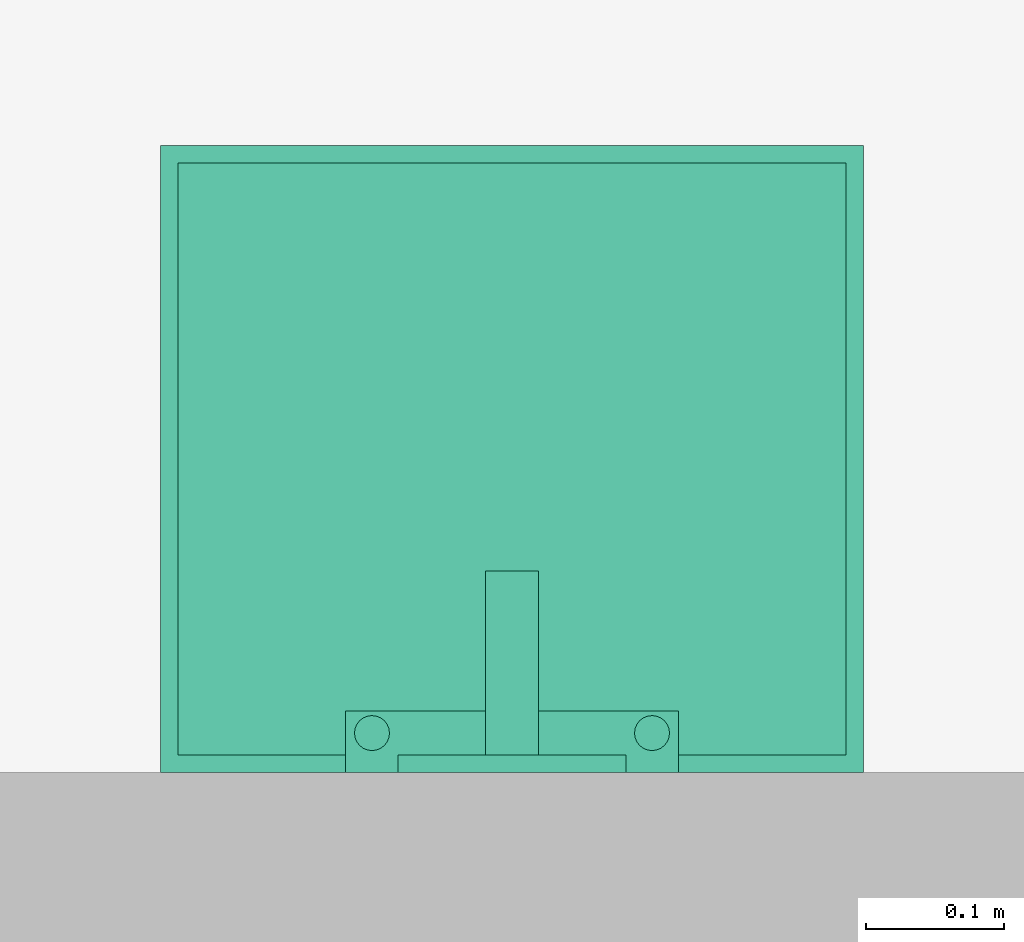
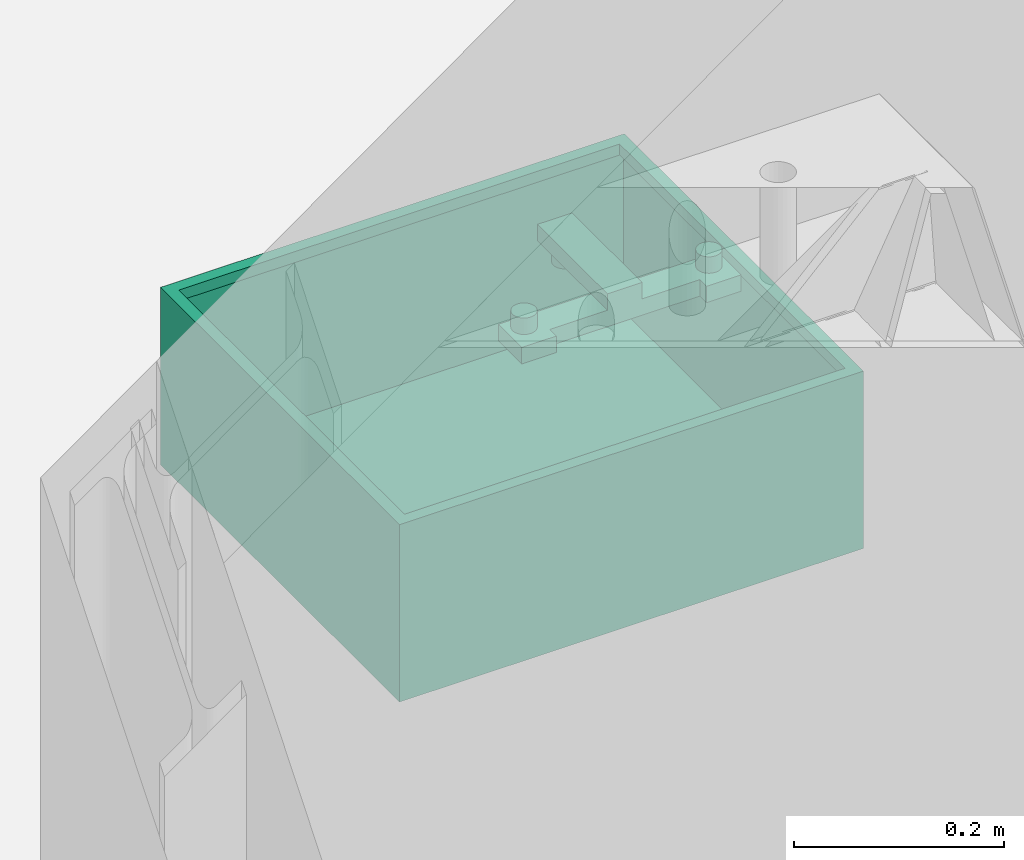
# One storey, part 111 of 137: 1 flow terminal.
"""IFC2X3 building model written with IfcOpenShell, lengths in centimetres."""

from ifc_helpers import new_model, entity, si_unit, converted_unit, derived_unit, direction, frame, origin, place, context, subcontext, project, spatial, faceted_brep, source, transform, mapped, element, save


model = new_model("IFC2X3")

# Units and contexts
model_context = context("Model", 3, precision=0.001, world=origin(), true_north=direction((6.12303176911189e-17, 1.0)))
body_context = subcontext(model_context, "Body", "Model", "MODEL_VIEW")
ifc_project = project(units=[si_unit("LENGTHUNIT", "METRE", prefix="CENTI"), si_unit("AREAUNIT", "SQUARE_METRE"), si_unit("VOLUMEUNIT", "CUBIC_METRE"), converted_unit("PLANEANGLEUNIT", "DEGREE", entity("IfcRatioMeasure", 0.0174532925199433), si_unit("PLANEANGLEUNIT", "RADIAN"), dimensions=[0, 0, 0, 0, 0, 0, 0]), si_unit("MASSUNIT", "GRAM", prefix="KILO"), si_unit("TIMEUNIT", "SECOND"), si_unit("FREQUENCYUNIT", "HERTZ"), si_unit("THERMODYNAMICTEMPERATUREUNIT", "DEGREE_CELSIUS"), derived_unit("THERMALTRANSMITTANCEUNIT", [(si_unit("MASSUNIT", "GRAM", prefix="KILO"), 1), (si_unit("THERMODYNAMICTEMPERATUREUNIT", "KELVIN"), -1), (si_unit("TIMEUNIT", "SECOND"), -3)]), derived_unit("VOLUMETRICFLOWRATEUNIT", [(si_unit("LENGTHUNIT", "METRE"), 3), (si_unit("TIMEUNIT", "SECOND"), -1)]), si_unit("ELECTRICCURRENTUNIT", "AMPERE"), si_unit("ELECTRICVOLTAGEUNIT", "VOLT"), si_unit("POWERUNIT", "WATT"), si_unit("FORCEUNIT", "NEWTON", prefix="KILO"), si_unit("ILLUMINANCEUNIT", "LUX"), si_unit("LUMINOUSFLUXUNIT", "LUMEN"), si_unit("LUMINOUSINTENSITYUNIT", "CANDELA"), derived_unit("USERDEFINED", [(si_unit("MASSUNIT", "GRAM", prefix="KILO"), -1), (si_unit("LENGTHUNIT", "METRE"), -2), (si_unit("TIMEUNIT", "SECOND"), 3), (si_unit("LUMINOUSFLUXUNIT", "LUMEN"), 1)]), derived_unit("LINEARVELOCITYUNIT", [(si_unit("LENGTHUNIT", "METRE"), 1), (si_unit("TIMEUNIT", "SECOND"), -1)]), si_unit("PRESSUREUNIT", "PASCAL"), derived_unit("USERDEFINED", [(si_unit("LENGTHUNIT", "METRE"), -2), (si_unit("MASSUNIT", "GRAM", prefix="KILO"), 1), (si_unit("TIMEUNIT", "SECOND"), -2)])], contexts=[model_context])

# Site, building, storey, space
site_placement = place(None, frame((8.62739174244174, -249.285249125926, 0.0)))
site = spatial("IfcSite", under=ifc_project, at=site_placement, Name="Default", CompositionType="ELEMENT")
building_placement = place(site_placement, origin())
building = spatial("IfcBuilding", under=site, at=building_placement, CompositionType="ELEMENT")
storey_placement = place(building_placement, origin())
storey = spatial("IfcBuildingStorey", under=building, at=storey_placement, Name="RDC", CompositionType="ELEMENT", Elevation=-8.82465566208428e-11)
space_placement = place(storey_placement, origin())
space = spatial("IfcSpace", under=storey, at=space_placement, Name="089", CompositionType="ELEMENT", InteriorOrExteriorSpace="INTERNAL")

# Flow terminal
shared_shape = source(origin(), body_context, "Body", "Brep", [
    faceted_brep([(25.5000000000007, 0.0, 20.6175000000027), (-25.4999999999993, 0.0, 20.6175000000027), (-25.4999999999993, -45.5000000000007, 20.6175000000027), (25.5000000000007, -45.5000000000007, 20.6175000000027), (24.2300000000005, -1.27000000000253, 20.6175000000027), (24.2300000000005, -44.2300000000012, 20.6175000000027), (-24.2299999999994, -44.2300000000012, 20.6175000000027), (-24.2299999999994, -1.27000000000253, 20.6175000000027), (25.5000000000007, 0.0, 19.3475000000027), (25.5000000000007, -45.5000000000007, 19.3475000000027), (-25.4999999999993, -45.5000000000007, 19.3475000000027), (-25.4999999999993, 0.0, 19.3475000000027), (24.2300000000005, -1.27000000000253, 19.3475000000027), (-24.2299999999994, -1.27000000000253, 19.3475000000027), (-24.2299999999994, -44.2300000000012, 19.3475000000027), (24.2300000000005, -44.2300000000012, 19.3475000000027)], [[[0, 1, 2, 3], [4, 5, 6, 7]], [[8, 9, 10, 11], [12, 13, 14, 15]], [[1, 0, 8, 11]], [[2, 1, 11, 10]], [[3, 2, 10, 9]], [[0, 3, 9, 8]], [[5, 4, 12, 15]], [[6, 5, 15, 14]], [[7, 6, 14, 13]], [[4, 7, 13, 12]]]),
    faceted_brep([(2.19970452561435, -13.9700000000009, 0.317499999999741), (2.45345159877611, -13.3574003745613, 0.317499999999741), (2.54000000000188, -12.7000000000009, 0.317499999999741), (2.45345159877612, -12.0425996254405, 0.317499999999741), (2.19970452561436, -11.4300000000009, 0.317499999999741), (1.79605122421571, -10.9039487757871, 0.317499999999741), (1.27000000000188, -10.5002954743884, 0.317499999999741), (0.657400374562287, -10.2465484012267, 0.317499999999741), (0.0, -10.1600000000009, 0.317499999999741), (-0.657400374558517, -10.2465484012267, 0.317499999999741), (-1.26999999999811, -10.5002954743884, 0.317499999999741), (-1.79605122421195, -10.9039487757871, 0.317499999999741), (-2.19970452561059, -11.4300000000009, 0.317499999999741), (-2.45345159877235, -12.0425996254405, 0.317499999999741), (-2.53999999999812, -12.7000000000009, 0.317499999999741), (-2.45345159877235, -13.3574003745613, 0.317499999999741), (-2.1997045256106, -13.9700000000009, 0.317499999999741), (-1.79605122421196, -14.4960512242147, 0.317499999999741), (-1.26999999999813, -14.8997045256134, 0.317499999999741), (-0.657400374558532, -15.1534515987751, 0.317499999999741), (0.0, -15.2400000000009, 0.317499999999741), (0.657400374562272, -15.1534515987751, 0.317499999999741), (1.27000000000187, -14.8997045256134, 0.317499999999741), (1.7960512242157, -14.4960512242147, 0.317499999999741), (-0.657400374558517, -10.2465484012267, 0.0), (0.0, -10.1600000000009, 0.0), (0.657400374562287, -10.2465484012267, 0.0), (1.27000000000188, -10.5002954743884, 0.0), (1.79605122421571, -10.9039487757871, 0.0), (2.19970452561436, -11.4300000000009, 0.0), (2.45345159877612, -12.0425996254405, 0.0), (2.54000000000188, -12.7000000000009, 0.0), (2.45345159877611, -13.3574003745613, 0.0), (2.19970452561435, -13.9700000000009, 0.0), (1.7960512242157, -14.4960512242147, 0.0), (1.27000000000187, -14.8997045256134, 0.0), (0.657400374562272, -15.1534515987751, 0.0), (0.0, -15.2400000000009, 0.0), (-0.657400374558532, -15.1534515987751, 0.0), (-1.26999999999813, -14.8997045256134, 0.0), (-1.79605122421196, -14.4960512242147, 0.0), (-2.1997045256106, -13.9700000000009, 0.0), (-2.45345159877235, -13.3574003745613, 0.0), (-2.53999999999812, -12.7000000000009, 0.0), (-2.45345159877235, -12.0425996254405, 0.0), (-2.19970452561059, -11.4300000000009, 0.0), (-1.79605122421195, -10.9039487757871, 0.0), (-1.26999999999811, -10.5002954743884, 0.0)], [[[0, 1, 2, 3, 4, 5, 6, 7, 8, 9, 10, 11, 12, 13, 14, 15, 16, 17, 18, 19, 20, 21, 22, 23]], [[24, 25, 26, 27, 28, 29, 30, 31, 32, 33, 34, 35, 36, 37, 38, 39, 40, 41, 42, 43, 44, 45, 46, 47]], [[42, 15, 14, 43]], [[41, 16, 15, 42]], [[18, 17, 40, 39]], [[41, 40, 17, 16]], [[19, 18, 39, 38]], [[20, 19, 38, 37]], [[36, 21, 20, 37]], [[35, 22, 21, 36]], [[0, 23, 34, 33]], [[35, 34, 23, 22]], [[1, 0, 33, 32]], [[2, 1, 32, 31]], [[30, 3, 2, 31]], [[29, 4, 3, 30]], [[6, 5, 28, 27]], [[29, 28, 5, 4]], [[7, 6, 27, 26]], [[8, 7, 26, 25]], [[24, 9, 8, 25]], [[47, 10, 9, 24]], [[12, 11, 46, 45]], [[47, 46, 11, 10]], [[13, 12, 45, 44]], [[14, 13, 44, 43]]]),
    faceted_brep([(25.5000000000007, 0.0, 19.3475000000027), (-25.4999999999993, 0.0, 19.3475000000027), (-25.4999999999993, -45.5000000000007, 19.3475000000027), (25.5000000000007, -45.5000000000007, 19.3475000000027), (25.1825000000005, -0.31750000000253, 19.3475000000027), (25.1825000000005, -45.1825000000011, 19.3475000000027), (-25.1824999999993, -45.1825000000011, 19.3475000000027), (-25.1824999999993, -0.317500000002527, 19.3475000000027), (25.5000000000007, 0.0, 0.0), (25.5000000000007, -45.5000000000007, 0.0), (-25.4999999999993, -45.5000000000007, 0.0), (-25.4999999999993, 0.0, 0.0), (25.1825000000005, -0.31750000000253, 0.317499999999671), (25.1825000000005, -45.1825000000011, 0.317499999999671), (-25.1824999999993, -45.1825000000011, 0.317499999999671), (-25.1824999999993, -0.317500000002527, 0.317499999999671)], [[[0, 1, 2, 3], [4, 5, 6, 7]], [[8, 9, 10, 11]], [[1, 0, 8, 11]], [[2, 1, 11, 10]], [[3, 2, 10, 9]], [[0, 3, 9, 8]], [[5, 4, 12, 13]], [[6, 5, 13, 14]], [[7, 6, 14, 15]], [[4, 7, 15, 12]], [[13, 12, 15, 14]]]),
    faceted_brep([(-9.83129981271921, -4.08422579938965, 38.4099999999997), (-9.52499999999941, -3.95735226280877, 38.4099999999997), (-9.26197438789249, -3.75552561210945, 38.4099999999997), (-9.06014773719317, -3.49250000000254, 38.4099999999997), (-8.93327420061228, -3.18620018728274, 38.4099999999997), (-8.8899999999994, -2.85750000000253, 38.4099999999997), (-8.93327420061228, -2.52879981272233, 38.4099999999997), (-9.06014773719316, -2.22250000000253, 38.4099999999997), (-9.26197438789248, -1.95947438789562, 38.4099999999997), (-9.5249999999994, -1.75764773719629, 38.4099999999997), (-9.8312998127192, -1.63077420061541, 38.4099999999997), (-10.1599999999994, -1.58750000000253, 38.4099999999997), (-10.4887001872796, -1.63077420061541, 38.4099999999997), (-10.7949999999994, -1.75764773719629, 38.4099999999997), (-11.0580256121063, -1.95947438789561, 38.4099999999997), (-11.2598522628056, -2.22250000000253, 38.4099999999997), (-11.3867257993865, -2.52879981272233, 38.4099999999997), (-11.4299999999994, -2.85750000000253, 38.4099999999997), (-11.3867257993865, -3.18620018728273, 38.4099999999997), (-11.2598522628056, -3.49250000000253, 38.4099999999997), (-11.0580256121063, -3.75552561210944, 38.4099999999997), (-10.7949999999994, -3.95735226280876, 38.4099999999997), (-10.4887001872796, -4.08422579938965, 38.4099999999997), (-10.1599999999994, -4.12750000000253, 38.4099999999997), (1.90500000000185, -14.6050000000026, 38.4099999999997), (1.90500000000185, -1.27000000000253, 38.4099999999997), (-1.90499999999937, -1.27000000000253, 38.4099999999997), (-1.90499999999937, -14.6050000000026, 38.4099999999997), (10.7950000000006, -3.95735226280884, 38.4099999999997), (11.0580256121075, -3.75552561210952, 38.4099999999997), (11.2598522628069, -3.4925000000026, 38.4099999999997), (11.3867257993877, -3.18620018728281, 38.4099999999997), (11.4300000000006, -2.8575000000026, 38.4099999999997), (11.3867257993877, -2.5287998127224, 38.4099999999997), (11.2598522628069, -2.2225000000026, 38.4099999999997), (11.0580256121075, -1.95947438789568, 38.4099999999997), (10.7950000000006, -1.75764773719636, 38.4099999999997), (10.4887001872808, -1.63077420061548, 38.4099999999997), (10.1600000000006, -1.5875000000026, 38.4099999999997), (9.83129981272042, -1.63077420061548, 38.4099999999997), (9.52500000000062, -1.75764773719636, 38.4099999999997), (9.26197438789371, -1.95947438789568, 38.4099999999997), (9.06014773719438, -2.22250000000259, 38.4099999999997), (8.9332742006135, -2.52879981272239, 38.4099999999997), (8.89000000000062, -2.85750000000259, 38.4099999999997), (8.9332742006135, -3.18620018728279, 38.4099999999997), (9.06014773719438, -3.49250000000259, 38.4099999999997), (9.2619743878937, -3.75552561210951, 38.4099999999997), (9.52500000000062, -3.95735226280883, 38.4099999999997), (9.83129981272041, -4.08422579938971, 38.4099999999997), (10.1600000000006, -4.1275000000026, 38.4099999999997), (10.4887001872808, -4.08422579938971, 38.4099999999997), (-8.25499999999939, -1.27000000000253, 36.5049999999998), (-8.25499999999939, 0.0, 36.5049999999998), (-9.52499999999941, -1.75764773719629, 36.5049999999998), (-9.26197438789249, -1.95947438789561, 36.5049999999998), (-9.06014773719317, -2.22250000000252, 36.5049999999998), (-8.93327420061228, -2.52879981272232, 36.5049999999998), (-8.8899999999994, -2.85750000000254, 36.5049999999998), (-1.90499999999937, -4.44500000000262, 36.5049999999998), (-1.90499999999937, -1.27000000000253, 36.5049999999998), (-9.83129981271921, -1.63077420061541, 36.5049999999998), (-10.1599999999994, -1.58750000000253, 36.5049999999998), (-12.0649999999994, 0.0, 36.5049999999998), (-10.4887001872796, -1.63077420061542, 36.5049999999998), (-10.7949999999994, -1.7576477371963, 36.5049999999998), (-11.0580256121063, -1.95947438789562, 36.5049999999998), (-11.2598522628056, -2.22250000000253, 36.5049999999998), (-11.3867257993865, -2.52879981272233, 36.5049999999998), (-11.4299999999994, -2.85750000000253, 36.5049999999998), (-12.0649999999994, -4.44500000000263, 36.5049999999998), (-11.3867257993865, -3.18620018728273, 36.5049999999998), (-11.2598522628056, -3.49250000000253, 36.5049999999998), (-11.0580256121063, -3.75552561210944, 36.5049999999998), (-10.7949999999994, -3.95735226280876, 36.5049999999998), (-10.4887001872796, -4.08422579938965, 36.5049999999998), (-10.1599999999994, -4.12750000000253, 36.5049999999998), (-8.93327420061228, -3.18620018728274, 36.5049999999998), (-9.06014773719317, -3.49250000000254, 36.5049999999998), (-9.26197438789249, -3.75552561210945, 36.5049999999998), (-9.52499999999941, -3.95735226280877, 36.5049999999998), (-9.83129981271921, -4.08422579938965, 36.5049999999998), (12.0650000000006, 0.0, 36.5049999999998), (11.2598522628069, -2.22250000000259, 36.5049999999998), (11.3867257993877, -2.52879981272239, 36.5049999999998), (11.0580256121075, -1.95947438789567, 36.5049999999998), (11.4300000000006, -2.8575000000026, 36.5049999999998), (10.7950000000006, -1.75764773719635, 36.5049999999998), (10.4887001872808, -1.63077420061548, 36.5049999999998), (10.1600000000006, -1.5875000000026, 36.5049999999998), (8.25500000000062, 0.0, 36.5049999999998), (12.0650000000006, -4.44500000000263, 36.5049999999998), (9.83129981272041, -1.63077420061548, 36.5049999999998), (9.52500000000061, -1.75764773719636, 36.5049999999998), (8.25500000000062, -1.27000000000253, 36.5049999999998), (9.2619743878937, -1.95947438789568, 36.5049999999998), (9.06014773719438, -2.2225000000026, 36.5049999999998), (8.9332742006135, -2.5287998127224, 36.5049999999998), (8.89000000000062, -2.8575000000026, 36.5049999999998), (1.90500000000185, -4.44500000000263, 36.5049999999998), (1.90500000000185, -1.27000000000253, 36.5049999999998), (10.1600000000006, -4.1275000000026, 36.5049999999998), (8.9332742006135, -3.18620018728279, 36.5049999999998), (9.06014773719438, -3.49250000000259, 36.5049999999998), (9.2619743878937, -3.75552561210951, 36.5049999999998), (9.52500000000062, -3.95735226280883, 36.5049999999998), (9.83129981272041, -4.08422579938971, 36.5049999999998), (10.4887001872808, -4.08422579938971, 36.5049999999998), (11.3867257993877, -3.18620018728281, 36.5049999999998), (11.2598522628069, -3.4925000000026, 36.5049999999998), (11.0580256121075, -3.75552561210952, 36.5049999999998), (10.7950000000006, -3.95735226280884, 36.5049999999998), (-1.09985226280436, -12.0650000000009, 36.5049999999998), (-1.22672579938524, -12.3712998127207, 36.5049999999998), (-0.898025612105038, -11.801974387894, 36.5049999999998), (-1.90499999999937, -14.6050000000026, 36.5049999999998), (-0.634999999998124, -11.6001477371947, 36.5049999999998), (-0.328700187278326, -11.4732742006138, 36.5049999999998), (0.0, -11.4300000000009, 36.5049999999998), (0.328700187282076, -11.4732742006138, 36.5049999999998), (0.635000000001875, -11.6001477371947, 36.5049999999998), (0.898025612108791, -11.801974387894, 36.5049999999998), (1.09985226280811, -12.0650000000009, 36.5049999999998), (1.226725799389, -12.3712998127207, 36.5049999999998), (1.90500000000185, -14.6050000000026, 36.5049999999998), (1.27000000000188, -12.7000000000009, 36.5049999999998), (1.226725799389, -13.0287001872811, 36.5049999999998), (1.09985226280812, -13.3350000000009, 36.5049999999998), (0.898025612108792, -13.5980256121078, 36.5049999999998), (0.635000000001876, -13.7998522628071, 36.5049999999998), (0.328700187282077, -13.926725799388, 36.5049999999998), (0.0, -13.9700000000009, 36.5049999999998), (-1.26999999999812, -12.7000000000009, 36.5049999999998), (-1.22672579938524, -13.0287001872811, 36.5049999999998), (-1.09985226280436, -13.3350000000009, 36.5049999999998), (-0.898025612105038, -13.5980256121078, 36.5049999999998), (-0.634999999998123, -13.7998522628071, 36.5049999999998), (-0.328700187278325, -13.926725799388, 36.5049999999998), (8.25500000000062, -1.27000000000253, 34.5999999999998), (-8.25499999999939, -1.27000000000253, 34.5999999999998), (-0.634999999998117, -11.6001477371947, 34.5999999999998), (-0.328700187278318, -11.4732742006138, 34.5999999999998), (0.0, -11.4300000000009, 34.5999999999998), (0.328700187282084, -11.4732742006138, 34.5999999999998), (0.635000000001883, -11.6001477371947, 34.5999999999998), (0.898025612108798, -11.801974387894, 34.5999999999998), (1.09985226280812, -12.0650000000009, 34.5999999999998), (1.226725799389, -12.3712998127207, 34.5999999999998), (1.27000000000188, -12.7000000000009, 34.5999999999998), (1.226725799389, -13.0287001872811, 34.5999999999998), (1.09985226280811, -13.3350000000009, 34.5999999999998), (0.898025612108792, -13.5980256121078, 34.5999999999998), (0.635000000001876, -13.7998522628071, 34.5999999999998), (0.328700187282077, -13.926725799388, 34.5999999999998), (0.0, -13.9700000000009, 34.5999999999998), (-0.328700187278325, -13.926725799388, 34.5999999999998), (-0.634999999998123, -13.7998522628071, 34.5999999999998), (-0.898025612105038, -13.5980256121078, 34.5999999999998), (-1.09985226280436, -13.3350000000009, 34.5999999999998), (-1.22672579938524, -13.0287001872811, 34.5999999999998), (-1.26999999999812, -12.7000000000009, 34.5999999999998), (-1.22672579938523, -12.3712998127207, 34.5999999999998), (-1.09985226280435, -12.0650000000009, 34.5999999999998), (-0.898025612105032, -11.801974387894, 34.5999999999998), (-12.0649999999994, 0.0, 34.5999999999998), (-8.25499999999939, 0.0, 34.5999999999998), (8.25500000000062, 0.0, 34.5999999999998), (12.0650000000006, 0.0, 34.5999999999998), (12.0650000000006, -4.44500000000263, 34.5999999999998), (-12.0649999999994, -4.44500000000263, 34.5999999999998)], [[[0, 1, 2, 3, 4, 5, 6, 7, 8, 9, 10, 11, 12, 13, 14, 15, 16, 17, 18, 19, 20, 21, 22, 23]], [[24, 25, 26, 27]], [[28, 29, 30, 31, 32, 33, 34, 35, 36, 37, 38, 39, 40, 41, 42, 43, 44, 45, 46, 47, 48, 49, 50, 51]], [[52, 53, 54]], [[54, 55, 52]], [[55, 56, 52]], [[57, 52, 56]], [[58, 52, 57]], [[58, 59, 52]], [[59, 60, 52]], [[61, 54, 53]], [[53, 62, 61]], [[62, 53, 63]], [[64, 62, 63]], [[65, 64, 63]], [[63, 66, 65]], [[66, 63, 67]], [[68, 67, 63]], [[63, 69, 68]], [[69, 63, 70]], [[71, 69, 70]], [[70, 72, 71]], [[72, 70, 73]], [[74, 73, 70]], [[74, 70, 75]], [[76, 75, 70]], [[76, 70, 59]], [[77, 59, 58]], [[59, 77, 78]], [[78, 79, 59]], [[79, 80, 59]], [[80, 81, 59]], [[59, 81, 76]], [[52, 53, 54]], [[54, 55, 52]], [[55, 56, 52]], [[57, 52, 56]], [[58, 52, 57]], [[58, 59, 52]], [[59, 60, 52]], [[61, 54, 53]], [[53, 62, 61]], [[62, 53, 63]], [[64, 62, 63]], [[65, 64, 63]], [[63, 66, 65]], [[66, 63, 67]], [[68, 67, 63]], [[63, 69, 68]], [[69, 63, 70]], [[71, 69, 70]], [[70, 72, 71]], [[72, 70, 73]], [[74, 73, 70]], [[74, 70, 75]], [[76, 75, 70]], [[76, 70, 59]], [[77, 59, 58]], [[59, 77, 78]], [[78, 79, 59]], [[79, 80, 59]], [[80, 81, 59]], [[59, 81, 76]], [[82, 83, 84]], [[83, 82, 85]], [[82, 84, 86]], [[87, 85, 82]], [[88, 87, 82]], [[89, 88, 82]], [[82, 90, 89]], [[86, 91, 82]], [[92, 89, 90]], [[93, 92, 90]], [[94, 93, 90]], [[95, 93, 94]], [[96, 95, 94]], [[97, 96, 94]], [[97, 94, 98]], [[94, 99, 98]], [[94, 100, 99]], [[91, 101, 99]], [[99, 102, 98]], [[102, 99, 103]], [[104, 103, 99]], [[104, 99, 105]], [[106, 105, 99]], [[106, 99, 101]], [[107, 101, 91]], [[86, 108, 91]], [[109, 91, 108]], [[91, 109, 110]], [[110, 111, 91]], [[111, 107, 91]], [[59, 112, 113]], [[112, 59, 114]], [[59, 113, 115]], [[116, 114, 59]], [[117, 116, 59]], [[118, 117, 59]], [[59, 99, 118]], [[119, 118, 99]], [[120, 119, 99]], [[121, 120, 99]], [[99, 122, 121]], [[122, 99, 123]], [[123, 99, 124]], [[124, 125, 123]], [[126, 125, 124]], [[127, 126, 124]], [[124, 128, 127]], [[128, 124, 129]], [[130, 129, 124]], [[131, 130, 124]], [[131, 124, 115]], [[132, 115, 113]], [[115, 132, 133]], [[115, 133, 134]], [[134, 135, 115]], [[135, 136, 115]], [[136, 137, 115]], [[115, 137, 131]], [[25, 100, 94, 138, 139, 52, 60, 26]], [[27, 26, 60, 59, 115]], [[24, 27, 115, 124]], [[25, 24, 124, 99, 100]], [[140, 141, 142, 143, 144, 145, 146, 147, 148, 149, 150, 151, 152, 153, 154, 155, 156, 157, 158, 159, 160, 161, 162, 163]], [[164, 165, 139, 138, 166, 167, 168, 169]], [[159, 133, 132, 160]], [[158, 134, 133, 159]], [[136, 135, 157, 156]], [[158, 157, 135, 134]], [[137, 136, 156, 155]], [[131, 137, 155, 154]], [[130, 131, 154, 153]], [[129, 130, 153, 152]], [[127, 150, 149, 126]], [[126, 149, 148, 125]], [[129, 152, 151, 128]], [[151, 150, 127, 128]], [[147, 123, 125, 148]], [[146, 122, 123, 147]], [[120, 121, 145, 144]], [[146, 145, 121, 122]], [[119, 120, 144, 143]], [[118, 119, 143, 142]], [[116, 140, 163, 114]], [[112, 162, 161, 113]], [[163, 162, 112, 114]], [[113, 161, 160, 132]], [[140, 116, 117, 141]], [[117, 118, 142, 141]], [[63, 53, 165, 164]], [[90, 82, 167, 166]], [[70, 63, 164, 169]], [[91, 99, 59, 70, 169, 168]], [[82, 91, 168, 167]], [[94, 90, 166, 138]], [[53, 52, 139, 165]], [[71, 18, 17, 69]], [[72, 19, 18, 71]], [[21, 20, 73, 74]], [[72, 73, 20, 19]], [[22, 21, 74, 75]], [[23, 22, 75, 76]], [[81, 0, 23, 76]], [[80, 1, 0, 81]], [[3, 2, 79, 78]], [[80, 79, 2, 1]], [[4, 3, 78, 77]], [[5, 4, 77, 58]], [[57, 6, 5, 58]], [[56, 7, 6, 57]], [[9, 8, 55, 54]], [[56, 55, 8, 7]], [[10, 9, 54, 61]], [[11, 10, 61, 62]], [[64, 12, 11, 62]], [[65, 13, 12, 64]], [[15, 14, 66, 67]], [[65, 66, 14, 13]], [[16, 15, 67, 68]], [[17, 16, 68, 69]], [[102, 45, 44, 98]], [[103, 46, 45, 102]], [[48, 47, 104, 105]], [[103, 104, 47, 46]], [[49, 48, 105, 106]], [[50, 49, 106, 101]], [[107, 51, 50, 101]], [[111, 28, 51, 107]], [[109, 30, 29, 110]], [[110, 29, 28, 111]], [[108, 31, 30, 109]], [[32, 31, 108, 86]], [[84, 33, 32, 86]], [[83, 34, 33, 84]], [[36, 35, 85, 87]], [[83, 85, 35, 34]], [[37, 36, 87, 88]], [[38, 37, 88, 89]], [[39, 38, 89, 92]], [[93, 40, 39, 92]], [[41, 95, 96, 42]], [[93, 95, 41, 40]], [[42, 96, 97, 43]], [[44, 43, 97, 98]]]),
])
flow_terminal_placement = place(space_placement, frame((1088.85377780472, 2822.48020806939, 50.0), z_axis=(0.0, 0.0, 1.0), x_axis=(-1.0, 0.0, 0.0)))
element("IfcFlowTerminal", 1, at=flow_terminal_placement, inside=space, Name="Evier - Professionnel:510 mmx455 mm", ObjectType="510 mmx455 mm", context=body_context, shape_type="MappedRepresentation", body=[
    mapped(shared_shape, transform((0.0, 0.0, 0.0), scale=1.0)),
])

save(model, "model.ifc")
